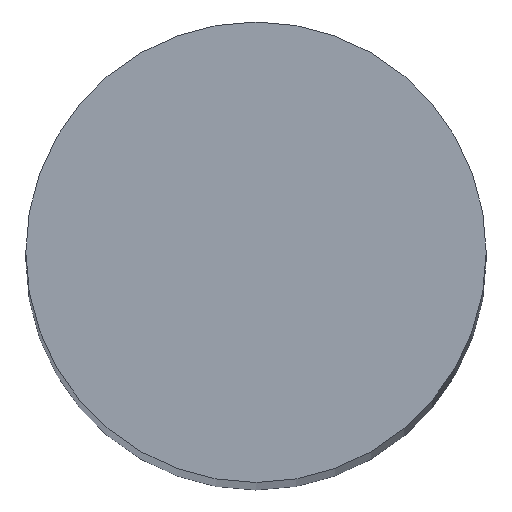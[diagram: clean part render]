
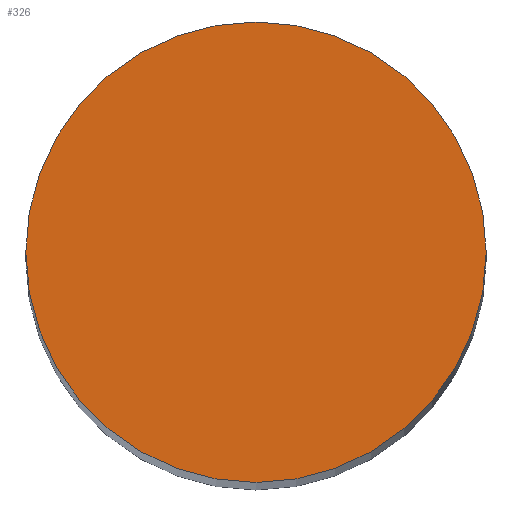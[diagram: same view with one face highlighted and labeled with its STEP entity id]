
A CAD part, top view. The second image highlights one B-rep face of the part: STEP entity #326.
In plain terms, the highlighted planar face has unit normal (0, 0, 1).
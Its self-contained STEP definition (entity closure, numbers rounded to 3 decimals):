
#11 = AXIS2_PLACEMENT_3D ( 'NONE', #293, #234, #315 ) ;
#54 = CARTESIAN_POINT ( 'NONE',  ( 8., 0., 150. ) ) ;
#82 = EDGE_CURVE ( 'NONE', #97, #97, #157, .T. ) ;
#97 = VERTEX_POINT ( 'NONE', #54 ) ;
#121 = DIRECTION ( 'NONE',  ( 0., 0., 1. ) ) ;
#157 = CIRCLE ( 'NONE', #11, 8. ) ;
#169 = CARTESIAN_POINT ( 'NONE',  ( 0., 0., 150. ) ) ;
#173 = DIRECTION ( 'NONE',  ( 1., 0., 0. ) ) ;
#177 = ORIENTED_EDGE ( 'NONE', *, *, #82, .T. ) ;
#199 = EDGE_LOOP ( 'NONE', ( #177 ) ) ;
#223 = PLANE ( 'NONE',  #245 ) ;
#234 = DIRECTION ( 'NONE',  ( 0., 0., 1. ) ) ;
#245 = AXIS2_PLACEMENT_3D ( 'NONE', #169, #121, #173 ) ;
#278 = FACE_OUTER_BOUND ( 'NONE', #199, .T. ) ;
#293 = CARTESIAN_POINT ( 'NONE',  ( 0., 0., 150. ) ) ;
#315 = DIRECTION ( 'NONE',  ( 1., 0., 0. ) ) ;
#326 = ADVANCED_FACE ( 'NONE', ( #278 ), #223, .T. ) ;
